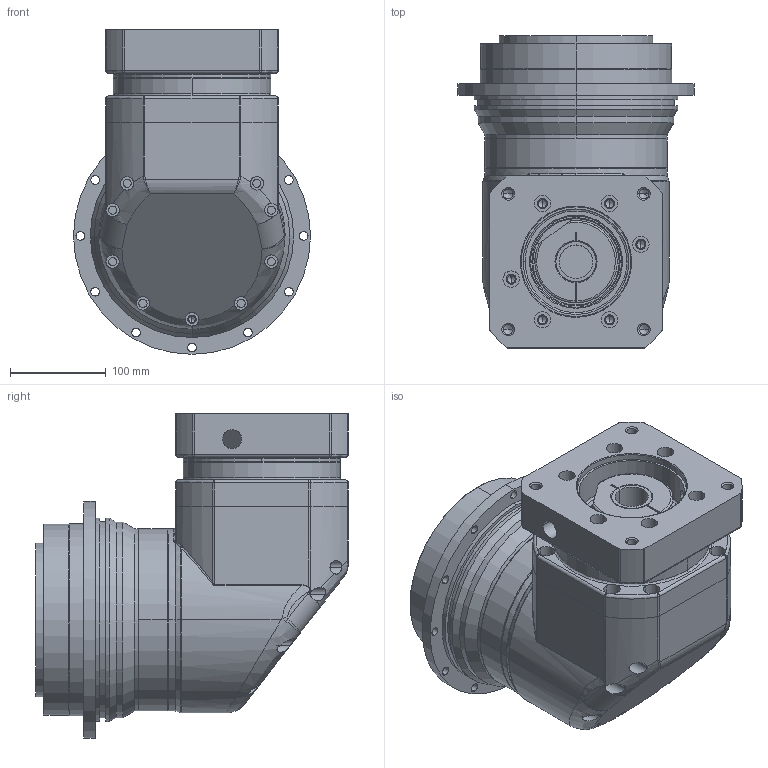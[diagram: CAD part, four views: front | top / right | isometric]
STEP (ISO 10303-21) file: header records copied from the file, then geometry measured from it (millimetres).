
FILE_DESCRIPTION (( 'STEP AP203' ), '1' );
FILE_NAME ('PLMX200-L1-35-114.-3-200.STEP', '2025-05-07T03:06:08', ( 'Windows User' ), ( 'P R C' ), 'SwSTEP 2.0', 'SolidWorks 2016', '' );
FILE_SCHEMA (( 'CONFIG_CONTROL_DESIGN' ));
Length unit declared in the file: millimetre
Products named in the file (14): PLMX200-L1-35-114.3-200-M12-85输入端; MYDR200_X2_8f6c89d27bb14f53_X0_; PLMX200-L1-35-114.-3-200; MYDR200_X2_8f9351fa7aef58f34f53_X0_; PLMX200眻褒眊极; MYAR180输入端壳体_1_1; MYA180输入法兰-114.3_1; PLMX200怀堤俴陎殤; MYAR180轴承-输入_1_1; PLMX200输出内齿圈; MYAR180输入轴_1; deep groove ball bearings gb_Rolling bearings 61926 GB 276-94; MYA180坶踡遠; 嘎殤蚐猾130-180-14
Assembly tree (13 placements, depth 3):
  PLMX200-L1-35-114.-3-200
    PLMX200怀堤俴陎殤
    PLMX200输出内齿圈
    deep groove ball bearings gb_Rolling bearings 61926 GB 276-94
    嘎殤蚐猾130-180-14
    PLMX200眻褒眊极
      MYDR200_X2_8f6c89d27bb14f53_X0_
      MYDR200_X2_8f9351fa7aef58f34f53_X0_
    PLMX200-L1-35-114.3-200-M12-85输入端
      MYAR180输入端壳体_1_1
      MYA180输入法兰-114.3_1
      MYAR180轴承-输入_1_1
      MYAR180输入轴_1
      MYA180坶踡遠
Bounding box: 247 x 325.8 x 338.5 mm (x, y, z)
Volume: 9125526.7 mm3; surface area: 1119340 mm2
Topology: 11 solids, 11 shells, 1892 faces, 5058 edges, 3190 vertices
Faces by surface type: plane 628, bspline 557, cylinder 460, cone 174, torus 71, sphere 2
Entity records: 83883 total; most frequent: CARTESIAN_POINT 38772, ORIENTED_EDGE 9936, DIRECTION 7881, EDGE_CURVE 4968, VERTEX_POINT 3190, AXIS2_PLACEMENT_3D 2883, EDGE_LOOP 2170, VECTOR 2115
